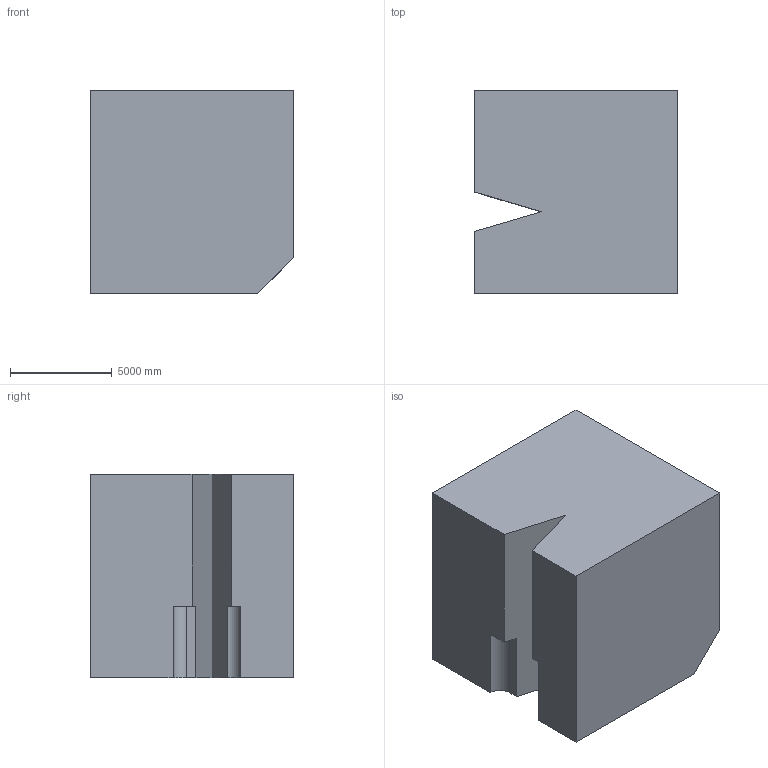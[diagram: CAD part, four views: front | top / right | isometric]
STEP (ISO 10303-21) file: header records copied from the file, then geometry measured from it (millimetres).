
FILE_DESCRIPTION (( 'STEP AP203' ), '1' );
FILE_NAME ('392.STEP', '2022-07-29T11:06:19', ( 'user' ), ( '' ), 'SwSTEP 2.0', 'SolidWorks 2021', '' );
FILE_SCHEMA (( 'CONFIG_CONTROL_DESIGN' ));
Length unit declared in the file: centimetre
Products named in the file (1): 392
Bounding box: 10000 x 10000 x 10000 mm (x, y, z)
Volume: 946804564992.2 mm3; surface area: 628379461.8 mm2
Topology: 1 solids, 1 shells, 17 faces, 45 edges, 30 vertices
Faces by surface type: plane 15, cylinder 2
Entity records: 600 total; most frequent: CARTESIAN_POINT 93, ORIENTED_EDGE 90, DIRECTION 85, EDGE_CURVE 45, LINE 41, VECTOR 41, VERTEX_POINT 30, AXIS2_PLACEMENT_3D 22
